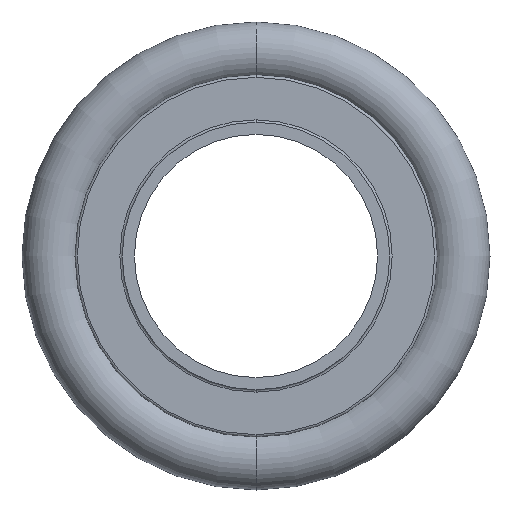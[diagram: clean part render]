
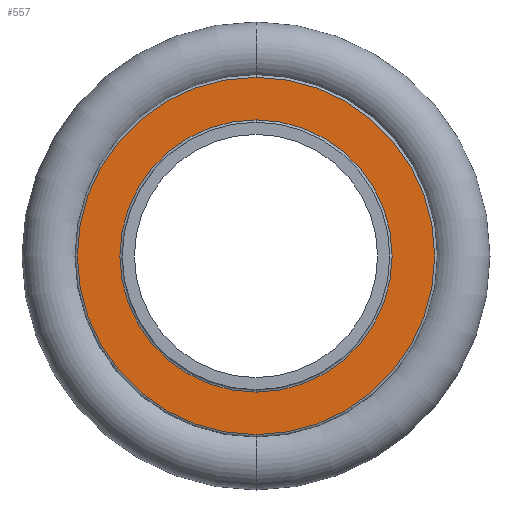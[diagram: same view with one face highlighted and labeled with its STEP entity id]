
A CAD part, front view. The second image highlights one B-rep face of the part: STEP entity #557.
In plain terms, the highlighted planar face has unit normal (0, -1, 0).
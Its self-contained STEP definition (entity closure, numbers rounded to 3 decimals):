
#21 = CARTESIAN_POINT ( 'NONE',  ( 0., -1.95, -11.2 ) ) ;
#48 = AXIS2_PLACEMENT_3D ( 'NONE', #304, #566, #177 ) ;
#49 = CARTESIAN_POINT ( 'NONE',  ( 0., -1.95, 14.694 ) ) ;
#61 = EDGE_LOOP ( 'NONE', ( #805, #813 ) ) ;
#69 = FACE_BOUND ( 'NONE', #579, .T. ) ;
#79 = AXIS2_PLACEMENT_3D ( 'NONE', #710, #731, #707 ) ;
#115 = DIRECTION ( 'NONE',  ( 0., 1., 0. ) ) ;
#134 = AXIS2_PLACEMENT_3D ( 'NONE', #756, #115, #315 ) ;
#164 = CARTESIAN_POINT ( 'NONE',  ( 0., -1.95, 11.2 ) ) ;
#177 = DIRECTION ( 'NONE',  ( 0., 0., 1. ) ) ;
#179 = CARTESIAN_POINT ( 'NONE',  ( 0., -1.95, -14.694 ) ) ;
#193 = CIRCLE ( 'NONE', #134, 11.2 ) ;
#219 = CIRCLE ( 'NONE', #773, 14.694 ) ;
#242 = CARTESIAN_POINT ( 'NONE',  ( 0., -1.95, 0. ) ) ;
#250 = VERTEX_POINT ( 'NONE', #21 ) ;
#271 = CIRCLE ( 'NONE', #48, 14.694 ) ;
#304 = CARTESIAN_POINT ( 'NONE',  ( 0., -1.95, 0. ) ) ;
#315 = DIRECTION ( 'NONE',  ( 0., 0., 1. ) ) ;
#335 = VERTEX_POINT ( 'NONE', #49 ) ;
#418 = FACE_OUTER_BOUND ( 'NONE', #61, .T. ) ;
#425 = DIRECTION ( 'NONE',  ( 0., 0., 1. ) ) ;
#446 = VERTEX_POINT ( 'NONE', #164 ) ;
#452 = ORIENTED_EDGE ( 'NONE', *, *, #740, .T. ) ;
#454 = EDGE_CURVE ( 'NONE', #446, #250, #193, .T. ) ;
#498 = DIRECTION ( 'NONE',  ( 0., 1., 0. ) ) ;
#501 = DIRECTION ( 'NONE',  ( 0., -1., 0. ) ) ;
#513 = EDGE_CURVE ( 'NONE', #335, #752, #271, .T. ) ;
#557 = ADVANCED_FACE ( 'NONE', ( #418, #69 ), #781, .F. ) ;
#566 = DIRECTION ( 'NONE',  ( 0., -1., 0. ) ) ;
#579 = EDGE_LOOP ( 'NONE', ( #713, #452 ) ) ;
#699 = CARTESIAN_POINT ( 'NONE',  ( 0., -1.95, 0. ) ) ;
#707 = DIRECTION ( 'NONE',  ( 0., 0., 1. ) ) ;
#710 = CARTESIAN_POINT ( 'NONE',  ( -11., -1.95, 0. ) ) ;
#713 = ORIENTED_EDGE ( 'NONE', *, *, #454, .T. ) ;
#726 = AXIS2_PLACEMENT_3D ( 'NONE', #699, #498, #425 ) ;
#731 = DIRECTION ( 'NONE',  ( 0., 1., 0. ) ) ;
#740 = EDGE_CURVE ( 'NONE', #250, #446, #775, .T. ) ;
#752 = VERTEX_POINT ( 'NONE', #179 ) ;
#756 = CARTESIAN_POINT ( 'NONE',  ( 0., -1.95, 0. ) ) ;
#759 = DIRECTION ( 'NONE',  ( 0., 0., 1. ) ) ;
#761 = EDGE_CURVE ( 'NONE', #752, #335, #219, .T. ) ;
#773 = AXIS2_PLACEMENT_3D ( 'NONE', #242, #501, #759 ) ;
#775 = CIRCLE ( 'NONE', #726, 11.2 ) ;
#781 = PLANE ( 'NONE',  #79 ) ;
#805 = ORIENTED_EDGE ( 'NONE', *, *, #761, .T. ) ;
#813 = ORIENTED_EDGE ( 'NONE', *, *, #513, .T. ) ;
